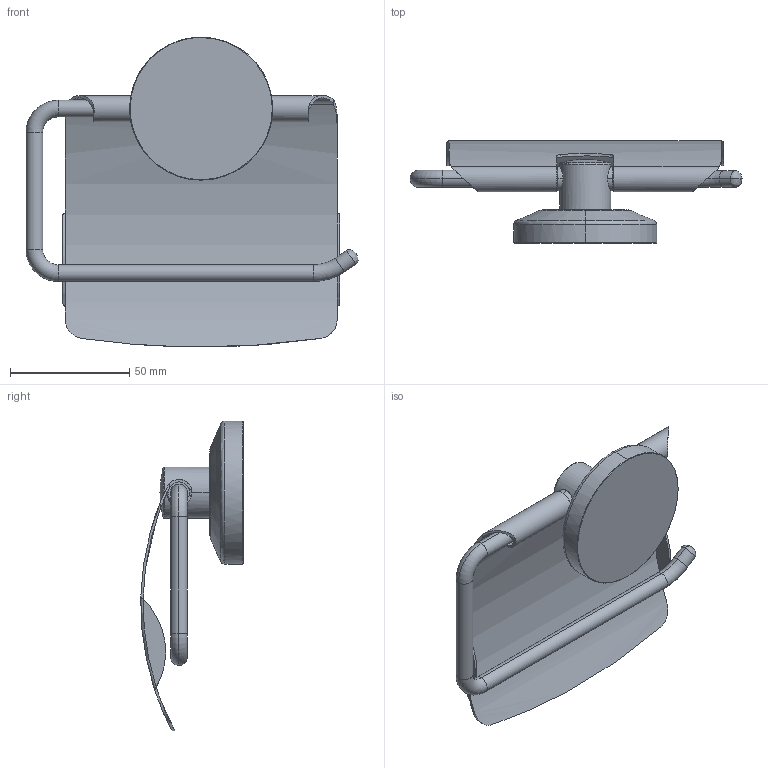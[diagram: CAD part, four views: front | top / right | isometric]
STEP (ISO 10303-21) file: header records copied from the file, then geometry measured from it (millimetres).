
FILE_DESCRIPTION(('THIS FILE CONTAINS SOME STEP INSTANCES'),'1');
FILE_NAME('sta_055.stp','2015-12-07T14:18:36',('UNDEFINED'),('UNDEFINED'),'T-FLEX CAD STEP converter','T-FLEX CAD','');
FILE_SCHEMA(('CONFIG_CONTROL_DESIGN'));
Length unit declared in the file: metre
Products named in the file (3): 3D 鐨飹懤艜_7; 3D 鐨飹懤艜_12; UP_053_02
Bounding box: 139.26 x 42.97 x 129.93 mm (x, y, z)
Volume: 66664.5 mm3; surface area: 43932.7 mm2
Topology: 3 solids, 3 shells, 99 faces, 244 edges, 149 vertices
Faces by surface type: cylinder 38, plane 22, torus 14, cone 12, bspline 11, sphere 2
Entity records: 7185 total; most frequent: CARTESIAN_POINT 5202, ORIENTED_EDGE 480, DIRECTION 313, EDGE_CURVE 240, VERTEX_POINT 149, AXIS2_PLACEMENT_3D 130, EDGE_LOOP 103, ADVANCED_FACE 99
